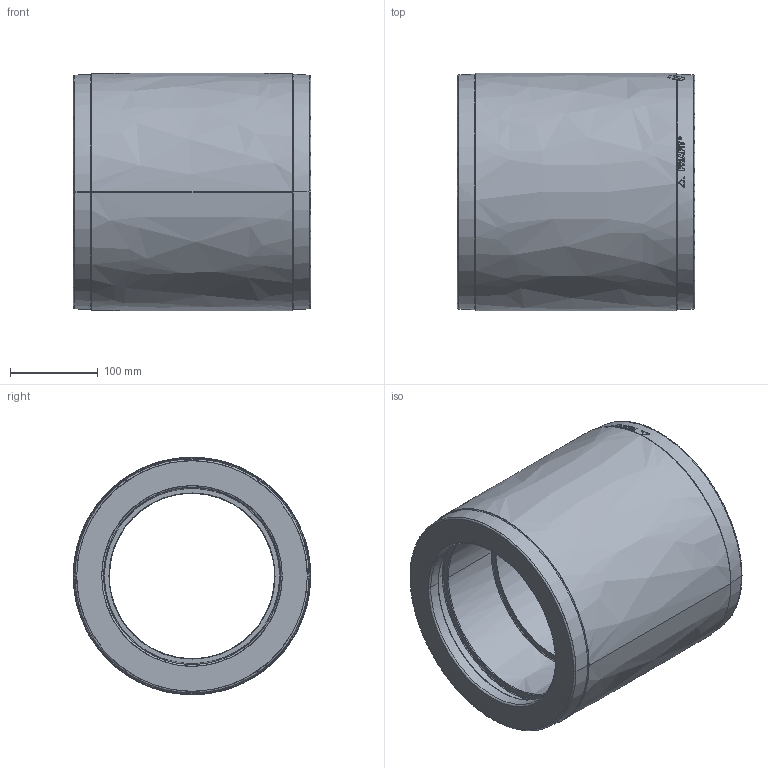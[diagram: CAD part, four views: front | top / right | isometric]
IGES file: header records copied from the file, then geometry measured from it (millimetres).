
Start section:  PTC IGES file: amkg_d225_dn200.igs
Global section: file name: amkg_d225_dn200.igs; native system: Pro/ENGINEER by Parametric Technology Corporation; preprocessor: 2011490; author: mtunjic; organization: Unknown; date: 20130724.102118; units: millimetre
Bounding box: 270 x 270 x 270 mm (x, y, z)
Surface area: 469047.9 mm2 (no closed solid volume)
Topology: 0 solids, 0 shells, 182 faces, 888 edges, 888 vertices
Faces by surface type: bspline 182
